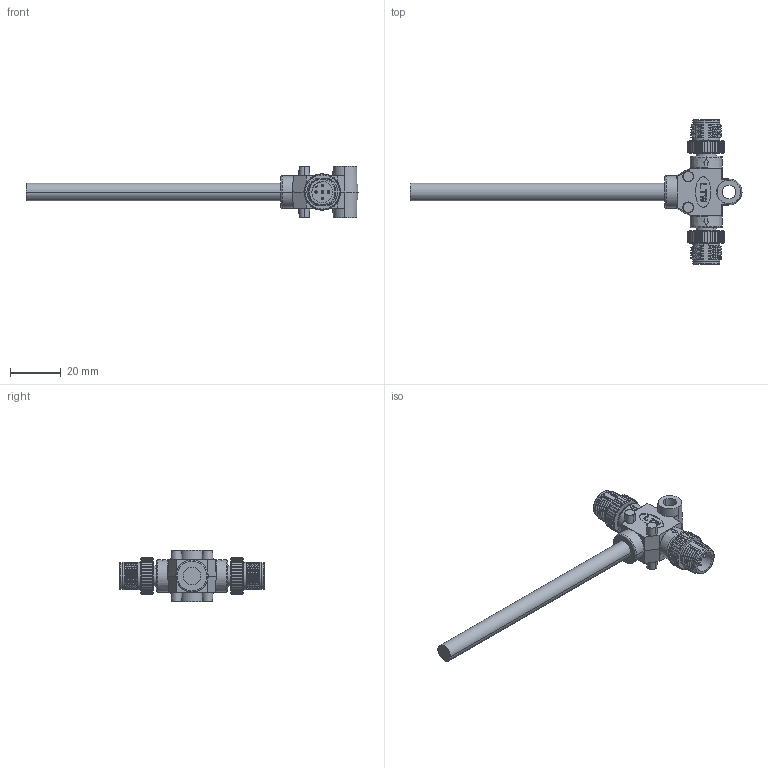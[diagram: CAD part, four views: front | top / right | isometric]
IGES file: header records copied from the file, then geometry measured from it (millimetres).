
Start section:  PTC IGES file: MC-050500-MM0-TSBXX.igs
Global section: file name: MC-050500-MM0-TSBXX.igs; native system: Creo Parametric by Parametric Technology Corporation; preprocessor: 2013050; author: LT0842; organization: Unknown; date: 20131129.161929; units: millimetre
Bounding box: 130.32 x 56.8 x 20.05 mm (x, y, z)
Volume: 12994.8 mm3; surface area: 7770.4 mm2
Topology: 1 solids, 1 shells, 986 faces, 2529 edges, 1558 vertices
Faces by surface type: bspline 530, revolution 456
